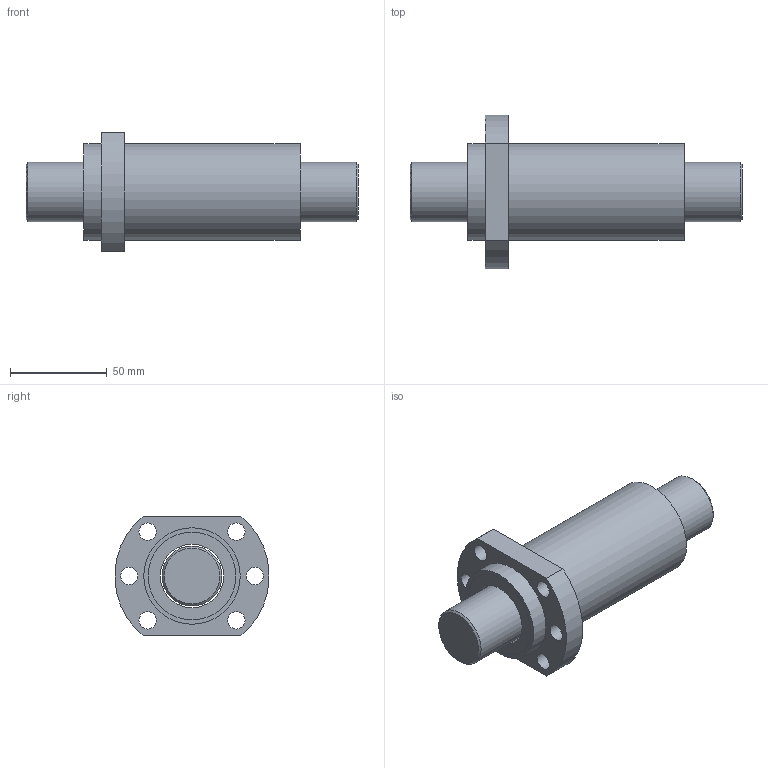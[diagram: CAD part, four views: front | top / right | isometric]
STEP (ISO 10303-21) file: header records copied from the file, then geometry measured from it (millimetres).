
FILE_DESCRIPTION(/* description */ (''),/* implementation_level */ '2;1');
FILE_NAME(/* name */ 'SFH3232-2.8.stp',/* time_stamp */ '2015-11-23T08:52:57+08:00',/* author */ (''),/* organization */ (''),/* preprocessor_version */ 'ST-DEVELOPER v11',/* originating_system */ 'SIEMENS UGS NX 6.0',/* authorisation */ '');
FILE_SCHEMA (('CONFIG_CONTROL_DESIGN'));
Length unit declared in the file: millimetre
Products named in the file (1): fann7DDE8qvl
Bounding box: 172 x 79.74 x 62 mm (x, y, z)
Volume: 278557.4 mm3; surface area: 64631.7 mm2
Topology: 4 solids, 4 shells, 50 faces, 90 edges, 60 vertices
Faces by surface type: cylinder 26, plane 22, cone 2
Full cylindrical faces by diameter (mm): 9 x6, 31 x1, 33 x3, 42 x4, 45.5 x4, 47 x4, 50 x2
Entity records: 1216 total; most frequent: DIRECTION 218, CARTESIAN_POINT 171, ORIENTED_EDGE 124, EDGE_LOOP 106, AXIS2_PLACEMENT_3D 105, FACE_BOUND 100, EDGE_CURVE 62, VERTEX_POINT 58
